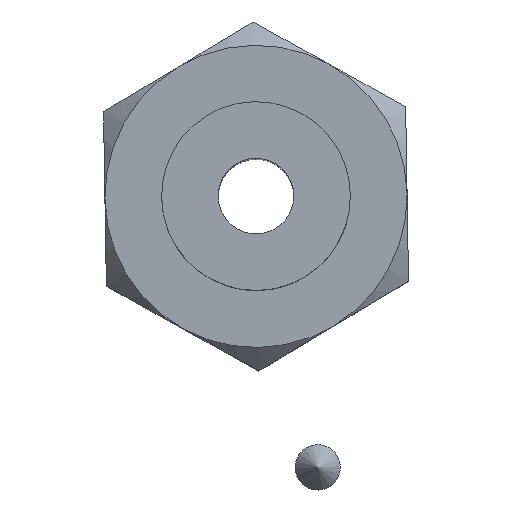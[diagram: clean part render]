
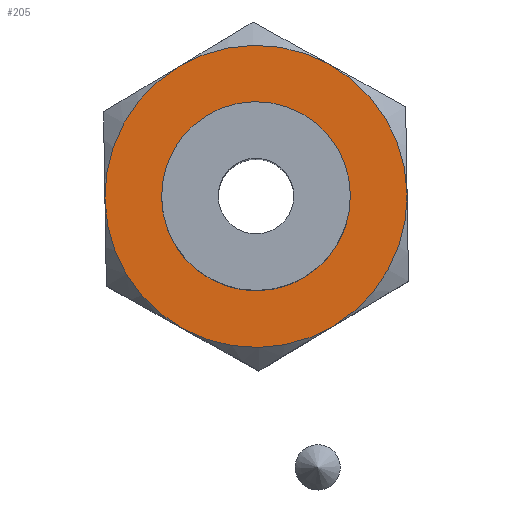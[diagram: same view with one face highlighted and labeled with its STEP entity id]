
A CAD part, top view. The second image highlights one B-rep face of the part: STEP entity #205.
In plain terms, the highlighted planar face has unit normal (0, 0, 1) as drawn and (0, 0, -1) by its records, which use the part's own axes.
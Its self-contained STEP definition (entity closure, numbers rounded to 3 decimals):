
#205=ADVANCED_FACE('',(#401,#402),#403,.T.);
#401=FACE_OUTER_BOUND('',#649,.T.);
#402=FACE_BOUND('',#650,.T.);
#403=PLANE('',#651);
#649=EDGE_LOOP('',(#970,#971,#972,#973,#974,#975));
#650=EDGE_LOOP('',(#976));
#651=AXIS2_PLACEMENT_3D('',#977,#978,#979);
#970=ORIENTED_EDGE('',*,*,#1271,.F.);
#971=ORIENTED_EDGE('',*,*,#1281,.F.);
#972=ORIENTED_EDGE('',*,*,#1305,.F.);
#973=ORIENTED_EDGE('',*,*,#1317,.F.);
#974=ORIENTED_EDGE('',*,*,#1318,.F.);
#975=ORIENTED_EDGE('',*,*,#1319,.F.);
#976=ORIENTED_EDGE('',*,*,#1310,.F.);
#977=CARTESIAN_POINT('',(-2.5,0.0,-2.5));
#978=DIRECTION('',(0.0,0.0,-1.0));
#979=DIRECTION('',(0.0,-1.0,0.0));
#1271=EDGE_CURVE('',#1415,#1412,#1417,.T.);
#1281=EDGE_CURVE('',#1424,#1415,#1433,.T.);
#1305=EDGE_CURVE('',#1461,#1424,#1467,.T.);
#1310=EDGE_CURVE('',#1474,#1474,#1475,.T.);
#1317=EDGE_CURVE('',#1448,#1461,#1485,.T.);
#1318=EDGE_CURVE('',#1486,#1448,#1487,.T.);
#1319=EDGE_CURVE('',#1412,#1486,#1488,.T.);
#1412=VERTEX_POINT('',#1618);
#1415=VERTEX_POINT('',#1630);
#1417=CIRCLE('',#1643,4.0);
#1424=VERTEX_POINT('',#1662);
#1433=CIRCLE('',#1710,4.0);
#1448=VERTEX_POINT('',#1758);
#1461=VERTEX_POINT('',#1821);
#1467=CIRCLE('',#1847,4.0);
#1474=VERTEX_POINT('',#1854);
#1475=CIRCLE('',#1855,2.5);
#1485=CIRCLE('',#1865,4.0);
#1486=VERTEX_POINT('',#1866);
#1487=CIRCLE('',#1867,4.0);
#1488=CIRCLE('',#1868,4.0);
#1618=CARTESIAN_POINT('',(-3.464,2.0,-2.5));
#1630=CARTESIAN_POINT('',(0.0,4.0,-2.5));
#1643=AXIS2_PLACEMENT_3D('',#2069,#2070,#2071);
#1662=CARTESIAN_POINT('',(3.464,2.0,-2.5));
#1710=AXIS2_PLACEMENT_3D('',#2074,#2075,#2076);
#1758=CARTESIAN_POINT('',(0.,-4.0,-2.5));
#1821=CARTESIAN_POINT('',(3.464,-2.0,-2.5));
#1847=AXIS2_PLACEMENT_3D('',#2089,#2090,#2091);
#1854=CARTESIAN_POINT('',(-2.5,0.0,-2.5));
#1855=AXIS2_PLACEMENT_3D('',#2098,#2099,#2100);
#1865=AXIS2_PLACEMENT_3D('',#2113,#2114,#2115);
#1866=CARTESIAN_POINT('',(-3.464,-2.0,-2.5));
#1867=AXIS2_PLACEMENT_3D('',#2116,#2117,#2118);
#1868=AXIS2_PLACEMENT_3D('',#2119,#2120,#2121);
#2069=CARTESIAN_POINT('',(0.0,0.0,-2.5));
#2070=DIRECTION('',(0.0,0.0,1.0));
#2071=DIRECTION('',(1.0,0.0,0.0));
#2074=CARTESIAN_POINT('',(0.0,0.0,-2.5));
#2075=DIRECTION('',(0.0,0.0,1.0));
#2076=DIRECTION('',(1.0,0.0,0.0));
#2089=CARTESIAN_POINT('',(0.0,0.0,-2.5));
#2090=DIRECTION('',(0.0,0.0,1.0));
#2091=DIRECTION('',(1.0,0.0,0.0));
#2098=CARTESIAN_POINT('',(0.0,0.0,-2.5));
#2099=DIRECTION('',(0.0,0.0,-1.0));
#2100=DIRECTION('',(-1.0,0.0,0.0));
#2113=CARTESIAN_POINT('',(0.0,0.0,-2.5));
#2114=DIRECTION('',(0.0,0.0,1.0));
#2115=DIRECTION('',(1.0,0.0,0.0));
#2116=CARTESIAN_POINT('',(0.0,0.0,-2.5));
#2117=DIRECTION('',(0.0,0.0,1.0));
#2118=DIRECTION('',(1.0,0.0,0.0));
#2119=CARTESIAN_POINT('',(0.0,0.0,-2.5));
#2120=DIRECTION('',(0.0,0.0,1.0));
#2121=DIRECTION('',(1.0,0.0,0.0));
